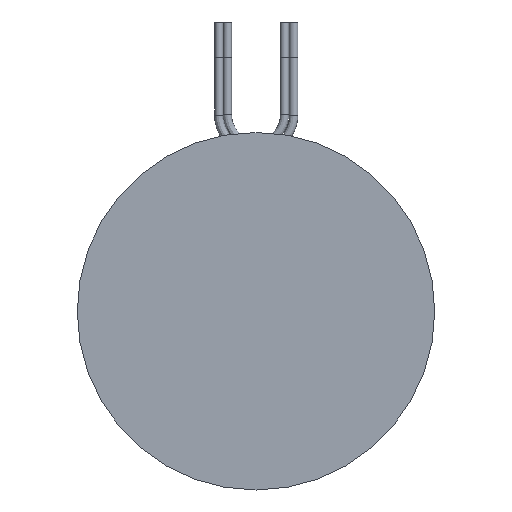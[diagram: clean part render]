
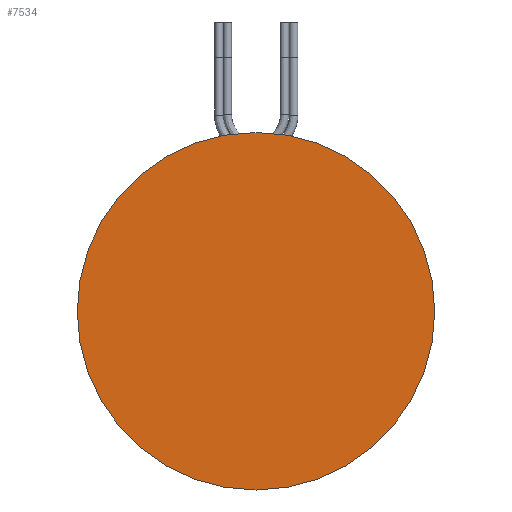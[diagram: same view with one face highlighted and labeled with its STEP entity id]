
A CAD part, front view. The second image highlights one B-rep face of the part: STEP entity #7534.
In plain terms, the highlighted planar face has unit normal (0, -1, 0).
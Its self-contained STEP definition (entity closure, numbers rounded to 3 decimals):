
#348 = DIRECTION ( 'NONE',  ( 0., 0., 1. ) ) ;
#495 = CARTESIAN_POINT ( 'NONE',  ( 0., 0., 25. ) ) ;
#1029 = DIRECTION ( 'NONE',  ( 0., 1., 0. ) ) ;
#1350 = VERTEX_POINT ( 'NONE', #495 ) ;
#2135 = VERTEX_POINT ( 'NONE', #9338 ) ;
#2977 = CIRCLE ( 'NONE', #11173, 25. ) ;
#5401 = DIRECTION ( 'NONE',  ( 0., 1., 0. ) ) ;
#6702 = DIRECTION ( 'NONE',  ( 0., 0., 1. ) ) ;
#7534 = ADVANCED_FACE ( 'NONE', ( #11679 ), #10126, .F. ) ;
#8016 = AXIS2_PLACEMENT_3D ( 'NONE', #14080, #10043, #348 ) ;
#8096 = EDGE_CURVE ( 'NONE', #2135, #1350, #9718, .T. ) ;
#9338 = CARTESIAN_POINT ( 'NONE',  ( 0., 0., -25. ) ) ;
#9449 = EDGE_CURVE ( 'NONE', #1350, #2135, #2977, .T. ) ;
#9718 = CIRCLE ( 'NONE', #12937, 25. ) ;
#10043 = DIRECTION ( 'NONE',  ( 0., 1., 0. ) ) ;
#10126 = PLANE ( 'NONE',  #8016 ) ;
#10699 = CARTESIAN_POINT ( 'NONE',  ( 0., 0., 0. ) ) ;
#11173 = AXIS2_PLACEMENT_3D ( 'NONE', #10699, #5401, #13904 ) ;
#11679 = FACE_OUTER_BOUND ( 'NONE', #17700, .T. ) ;
#12937 = AXIS2_PLACEMENT_3D ( 'NONE', #15030, #1029, #6702 ) ;
#13464 = ORIENTED_EDGE ( 'NONE', *, *, #9449, .F. ) ;
#13904 = DIRECTION ( 'NONE',  ( 0., 0., 1. ) ) ;
#14080 = CARTESIAN_POINT ( 'NONE',  ( 0., 0., 0. ) ) ;
#15030 = CARTESIAN_POINT ( 'NONE',  ( 0., 0., 0. ) ) ;
#17275 = ORIENTED_EDGE ( 'NONE', *, *, #8096, .F. ) ;
#17700 = EDGE_LOOP ( 'NONE', ( #17275, #13464 ) ) ;
